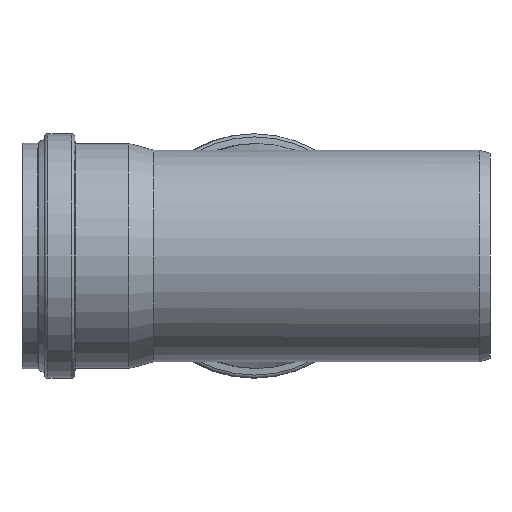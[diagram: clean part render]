
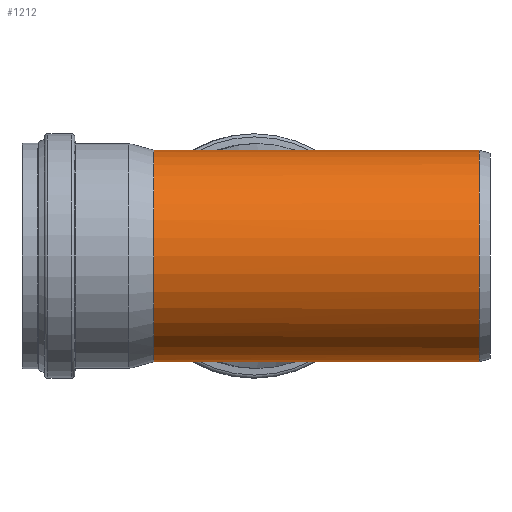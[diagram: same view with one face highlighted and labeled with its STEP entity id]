
A CAD part, left-side view. The second image highlights one B-rep face of the part: STEP entity #1212.
In plain terms, the highlighted cylindrical face has radius 125.15 mm (diameter 250.3 mm), a full revolution.
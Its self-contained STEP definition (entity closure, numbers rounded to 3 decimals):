
#113=FACE_OUTER_BOUND('',#186,.T.);
#186=EDGE_LOOP('',(#983,#984,#985,#986,#987,#988,#989,#990));
#223=ELLIPSE('',#1276,173.251,125.15);
#224=ELLIPSE('',#1277,180.98,125.15);
#225=ELLIPSE('',#1278,180.98,125.15);
#226=ELLIPSE('',#1279,173.251,125.15);
#251=LINE('',#2202,#291);
#291=VECTOR('',#1763,125.15);
#378=CIRCLE('',#1380,125.15);
#383=CIRCLE('',#1389,125.15);
#457=VERTEX_POINT('',#1991);
#458=VERTEX_POINT('',#1993);
#459=VERTEX_POINT('',#1995);
#461=VERTEX_POINT('',#2002);
#462=VERTEX_POINT('',#2007);
#522=VERTEX_POINT('',#2198);
#586=EDGE_CURVE('',#458,#457,#223,.T.);
#587=EDGE_CURVE('',#459,#458,#224,.T.);
#590=EDGE_CURVE('',#462,#461,#225,.T.);
#591=EDGE_CURVE('',#457,#462,#226,.T.);
#677=EDGE_CURVE('',#459,#461,#378,.T.);
#685=EDGE_CURVE('',#522,#522,#383,.T.);
#687=EDGE_CURVE('',#457,#522,#251,.T.);
#983=ORIENTED_EDGE('',*,*,#590,.T.);
#984=ORIENTED_EDGE('',*,*,#677,.F.);
#985=ORIENTED_EDGE('',*,*,#587,.T.);
#986=ORIENTED_EDGE('',*,*,#586,.T.);
#987=ORIENTED_EDGE('',*,*,#687,.T.);
#988=ORIENTED_EDGE('',*,*,#685,.T.);
#989=ORIENTED_EDGE('',*,*,#687,.F.);
#990=ORIENTED_EDGE('',*,*,#591,.T.);
#1165=CYLINDRICAL_SURFACE('',#1390,125.15);
#1212=ADVANCED_FACE('',(#113),#1165,.T.);
#1276=AXIS2_PLACEMENT_3D('',#1994,#1512,#1513);
#1277=AXIS2_PLACEMENT_3D('',#1996,#1514,#1515);
#1278=AXIS2_PLACEMENT_3D('',#2008,#1516,#1517);
#1279=AXIS2_PLACEMENT_3D('',#2009,#1518,#1519);
#1380=AXIS2_PLACEMENT_3D('',#2182,#1737,#1738);
#1389=AXIS2_PLACEMENT_3D('',#2199,#1758,#1759);
#1390=AXIS2_PLACEMENT_3D('',#2201,#1761,#1762);
#1512=DIRECTION('center_axis',(-0.692,-0.722,0.));
#1513=DIRECTION('ref_axis',(-0.722,0.692,0.));
#1514=DIRECTION('center_axis',(-0.722,0.692,0.));
#1515=DIRECTION('ref_axis',(0.692,0.722,0.));
#1516=DIRECTION('center_axis',(-0.722,0.692,0.));
#1517=DIRECTION('ref_axis',(0.692,0.722,0.));
#1518=DIRECTION('center_axis',(-0.692,-0.722,0.));
#1519=DIRECTION('ref_axis',(-0.722,0.692,0.));
#1737=DIRECTION('center_axis',(0.,1.,0.));
#1738=DIRECTION('ref_axis',(1.,0.,0.));
#1758=DIRECTION('center_axis',(0.,1.,0.));
#1759=DIRECTION('ref_axis',(1.,0.,0.));
#1761=DIRECTION('center_axis',(0.,1.,0.));
#1762=DIRECTION('ref_axis',(-1.,0.,0.));
#1763=DIRECTION('',(0.,-1.,0.));
#1991=CARTESIAN_POINT('',(125.15,147.195,0.));
#1993=CARTESIAN_POINT('',(0.,267.,-125.15));
#1994=CARTESIAN_POINT('Origin',(0.,267.,0.));
#1995=CARTESIAN_POINT('',(124.993,397.569,-6.276));
#1996=CARTESIAN_POINT('Origin',(0.,267.,0.));
#2002=CARTESIAN_POINT('',(124.993,397.569,6.276));
#2007=CARTESIAN_POINT('',(0.,267.,125.15));
#2008=CARTESIAN_POINT('Origin',(0.,267.,0.));
#2009=CARTESIAN_POINT('Origin',(0.,267.,0.));
#2182=CARTESIAN_POINT('Origin',(0.,397.569,0.));
#2198=CARTESIAN_POINT('',(125.15,13.,0.));
#2199=CARTESIAN_POINT('Origin',(0.,13.,0.));
#2201=CARTESIAN_POINT('Origin',(0.,205.284,0.));
#2202=CARTESIAN_POINT('',(125.15,205.284,0.));
